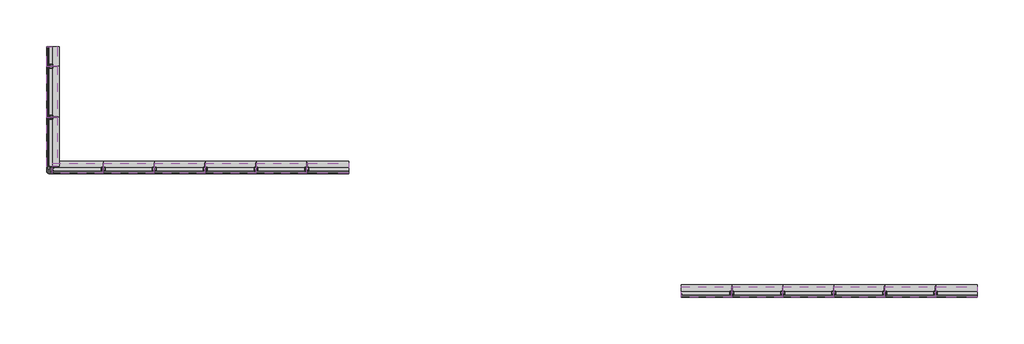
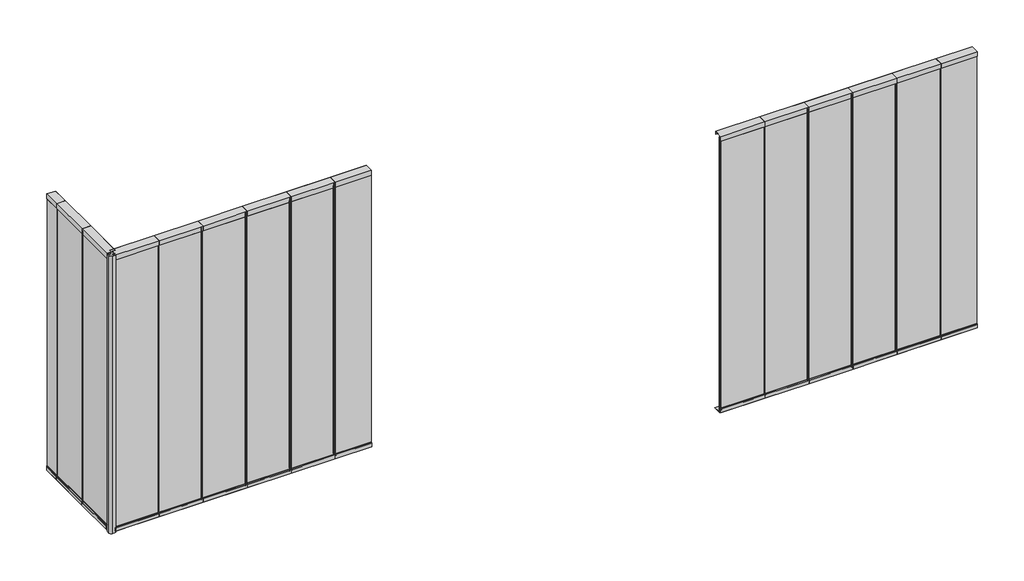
# One storey: 43 members, 15 plates.
"""IFC4 building model written with IfcOpenShell, lengths in millimetres."""

from ifc_helpers import new_model, si_unit, origin, place, context, project, spatial, transform, mapped, element, save
from components import rectangular_mullion_c9690b13, rectangular_mullion_fa24a072, rectangular_mullion_9e865116, rectangular_mullion_2f2f3dde, rectangular_mullion_af15ca39, rectangular_mullion_fc1cdcd0, rectangular_mullion_d827e7fb, rectangular_mullion_955bdfa4, rectangular_mullion_7821c9bf, rectangular_mullion_8e3434e9, rectangular_mullion_a9427354, rectangular_mullion_cf001a00, rectangular_mullion_389ec351, plate_2a2454c8, plate_1be38f5d, plate_535f7c57, plate_27c9e9b5

model = new_model("IFC4")

# Units and contexts
model_context = context("Model", 3, world=origin())
ifc_project = project(units=[si_unit("LENGTHUNIT", "METRE", prefix="MILLI")], contexts=[model_context])

# Site, building, storey
site = spatial("IfcSite", under=ifc_project)
building = spatial("IfcBuilding", under=site)
storey = spatial("IfcBuildingStorey", under=building, Name="Danpal-VRS", Elevation=0.0)

# Members
placement = place(None, origin())
rectangular_mullion_shape = rectangular_mullion_c9690b13(model_context)
element("IfcMember", 1, ObjectType="Rectangular Mullion : Danpal_VRS_Interal-Cor-Mullion", at=placement, inside=storey, context=model_context, shape_type="MappedRepresentation", body=[
    mapped(rectangular_mullion_shape, transform((-6086.6024384, -379.5421989, 4000.0), x_axis=(0.0, -1.0, 0.0), y_axis=(1.0, 0.0, 0.0), z_axis=(0.0, 0.0, 1.0))),
])
rectangular_mullion_2_shape = rectangular_mullion_fa24a072(model_context)
element("IfcMember", 2, ObjectType="Rectangular Mullion : Danpal_VRS_Interal-Ver-Mullion", at=placement, inside=storey, context=model_context, shape_type="MappedRepresentation", body=[
    mapped(rectangular_mullion_2_shape, transform((-6086.6024384, 288.4104788, 79.8611478), x_axis=(0.0, 1.0, 0.0), y_axis=(1.0, 0.0, 0.0), z_axis=(0.0, 0.0, -1.0))),
])
element("IfcMember", 3, ObjectType="Rectangular Mullion : Danpal_VRS_Interal-Ver-Mullion", at=placement, inside=storey, context=model_context, shape_type="MappedRepresentation", body=[
    mapped(rectangular_mullion_2_shape, transform((-6086.6024384, 889.4104788, 79.8611478), x_axis=(0.0, 1.0, 0.0), y_axis=(1.0, 0.0, 0.0), z_axis=(0.0, 0.0, -1.0))),
])
rectangular_mullion_3_shape = rectangular_mullion_9e865116(model_context)
element("IfcMember", 4, ObjectType="Rectangular Mullion : Danpal_VRS_Interal-Ver-Mullion", at=placement, inside=storey, context=model_context, shape_type="MappedRepresentation", body=[
    mapped(rectangular_mullion_3_shape, transform((-3022.6024384, -368.7421989, 79.8611478), x_axis=(1.0, 0.0, 0.0), y_axis=(0.0, -1.0, 0.0), z_axis=(0.0, 0.0, -1.0))),
])
element("IfcMember", 5, ObjectType="Rectangular Mullion : Danpal_VRS_Interal-Ver-Mullion", at=placement, inside=storey, context=model_context, shape_type="MappedRepresentation", body=[
    mapped(rectangular_mullion_3_shape, transform((-3623.6024384, -368.7421989, 79.8611478), x_axis=(1.0, 0.0, 0.0), y_axis=(0.0, -1.0, 0.0), z_axis=(0.0, 0.0, -1.0))),
])
element("IfcMember", 6, ObjectType="Rectangular Mullion : Danpal_VRS_Interal-Ver-Mullion", at=placement, inside=storey, context=model_context, shape_type="MappedRepresentation", body=[
    mapped(rectangular_mullion_3_shape, transform((1995.9213414, -1830.6007225, 79.8611478), x_axis=(1.0, 0.0, 0.0), y_axis=(0.0, -1.0, 0.0), z_axis=(0.0, 0.0, -1.0))),
])
element("IfcMember", 7, ObjectType="Rectangular Mullion : Danpal_VRS_Interal-Ver-Mullion", at=placement, inside=storey, context=model_context, shape_type="MappedRepresentation", body=[
    mapped(rectangular_mullion_3_shape, transform((2596.9213414, -1830.6007225, 79.8611478), x_axis=(1.0, 0.0, 0.0), y_axis=(0.0, -1.0, 0.0), z_axis=(0.0, 0.0, -1.0))),
])
element("IfcMember", 8, ObjectType="Rectangular Mullion : Danpal_VRS_Interal-Ver-Mullion", at=placement, inside=storey, context=model_context, shape_type="MappedRepresentation", body=[
    mapped(rectangular_mullion_3_shape, transform((3197.9213414, -1830.6007225, 79.8611478), x_axis=(1.0, 0.0, 0.0), y_axis=(0.0, -1.0, 0.0), z_axis=(0.0, 0.0, -1.0))),
])
element("IfcMember", 9, ObjectType="Rectangular Mullion : Danpal_VRS_Interal-Ver-Mullion", at=placement, inside=storey, context=model_context, shape_type="MappedRepresentation", body=[
    mapped(rectangular_mullion_3_shape, transform((3798.9213414, -1830.6007225, 79.8611478), x_axis=(1.0, 0.0, 0.0), y_axis=(0.0, -1.0, 0.0), z_axis=(0.0, 0.0, -1.0))),
])
element("IfcMember", 10, ObjectType="Rectangular Mullion : Danpal_VRS_Interal-Ver-Mullion", at=placement, inside=storey, context=model_context, shape_type="MappedRepresentation", body=[
    mapped(rectangular_mullion_3_shape, transform((4399.9213414, -1830.6007225, 79.8611478), x_axis=(1.0, 0.0, 0.0), y_axis=(0.0, -1.0, 0.0), z_axis=(0.0, 0.0, -1.0))),
])
element("IfcMember", 11, ObjectType="Rectangular Mullion : Danpal_VRS_Interal-Ver-Mullion", at=placement, inside=storey, context=model_context, shape_type="MappedRepresentation", body=[
    mapped(rectangular_mullion_3_shape, transform((-4224.6024384, -368.7421989, 79.8611478), x_axis=(1.0, 0.0, 0.0), y_axis=(0.0, -1.0, 0.0), z_axis=(0.0, 0.0, -1.0))),
])
element("IfcMember", 12, ObjectType="Rectangular Mullion : Danpal_VRS_Interal-Ver-Mullion", at=placement, inside=storey, context=model_context, shape_type="MappedRepresentation", body=[
    mapped(rectangular_mullion_3_shape, transform((-4825.6024384, -368.7421989, 79.8611478), x_axis=(1.0, 0.0, 0.0), y_axis=(0.0, -1.0, 0.0), z_axis=(0.0, 0.0, -1.0))),
])
element("IfcMember", 13, ObjectType="Rectangular Mullion : Danpal_VRS_Interal-Ver-Mullion", at=placement, inside=storey, context=model_context, shape_type="MappedRepresentation", body=[
    mapped(rectangular_mullion_3_shape, transform((-5426.6024384, -368.7421989, 79.8611478), x_axis=(1.0, 0.0, 0.0), y_axis=(0.0, -1.0, 0.0), z_axis=(0.0, 0.0, -1.0))),
])
rectangular_mullion_4_shape = rectangular_mullion_2f2f3dde(model_context)
element("IfcMember", 14, ObjectType="Rectangular Mullion : Danpal_VRS_Top-Mullion", at=placement, inside=storey, context=model_context, shape_type="MappedRepresentation", body=[
    mapped(rectangular_mullion_4_shape, transform((-6086.6024384, 288.4104788, 4000.0), x_axis=(0.0, 0.0, 1.0), y_axis=(1.0, 0.0, 0.0), z_axis=(0.0, 1.0, 0.0))),
])
rectangular_mullion_5_shape = rectangular_mullion_af15ca39(model_context)
element("IfcMember", 15, ObjectType="Rectangular Mullion : Danpal_VRS_Top-Mullion", at=placement, inside=storey, context=model_context, shape_type="MappedRepresentation", body=[
    mapped(rectangular_mullion_5_shape, transform((-6086.6024384, 889.4104788, 4000.0), x_axis=(0.0, 0.0, 1.0), y_axis=(1.0, 0.0, 0.0), z_axis=(0.0, 1.0, 0.0))),
])
rectangular_mullion_6_shape = rectangular_mullion_fc1cdcd0(model_context)
element("IfcMember", 16, ObjectType="Rectangular Mullion : Danpal_VRS_Bottom-Mullion", at=placement, inside=storey, context=model_context, shape_type="MappedRepresentation", body=[
    mapped(rectangular_mullion_6_shape, transform((-6086.6024384, -291.2373802, 0.0), x_axis=(0.0, 0.0, -1.0), y_axis=(1.0, 0.0, 0.0), z_axis=(0.0, -1.0, 0.0))),
])
rectangular_mullion_7_shape = rectangular_mullion_d827e7fb(model_context)
element("IfcMember", 17, ObjectType="Rectangular Mullion : Danpal_VRS_Bottom-Mullion", at=placement, inside=storey, context=model_context, shape_type="MappedRepresentation", body=[
    mapped(rectangular_mullion_7_shape, transform((-6086.6024384, 288.4104788, 0.0), x_axis=(0.0, 0.0, -1.0), y_axis=(1.0, 0.0, 0.0), z_axis=(0.0, -1.0, 0.0))),
])
rectangular_mullion_8_shape = rectangular_mullion_955bdfa4(model_context)
element("IfcMember", 18, ObjectType="Rectangular Mullion : Danpal_VRS_Bottom-Mullion", at=placement, inside=storey, context=model_context, shape_type="MappedRepresentation", body=[
    mapped(rectangular_mullion_8_shape, transform((-6027.6024384, -368.7421989, 0.0), x_axis=(0.0, 0.0, -1.0), y_axis=(0.0, -1.0, 0.0), z_axis=(-1.0, 0.0, 0.0))),
])
element("IfcMember", 19, ObjectType="Rectangular Mullion : Danpal_VRS_Bottom-Mullion", at=placement, inside=storey, context=model_context, shape_type="MappedRepresentation", body=[
    mapped(rectangular_mullion_8_shape, transform((1394.9213414, -1830.6007225, 0.0), x_axis=(0.0, 0.0, -1.0), y_axis=(0.0, -1.0, 0.0), z_axis=(-1.0, 0.0, 0.0))),
])
rectangular_mullion_9_shape = rectangular_mullion_7821c9bf(model_context)
element("IfcMember", 20, ObjectType="Rectangular Mullion : Danpal_VRS_Top-Mullion", at=placement, inside=storey, context=model_context, shape_type="MappedRepresentation", body=[
    mapped(rectangular_mullion_9_shape, transform((-3022.6024384, -368.7421989, 4000.0), x_axis=(0.0, 0.0, 1.0), y_axis=(0.0, -1.0, 0.0), z_axis=(1.0, 0.0, 0.0))),
])
element("IfcMember", 21, ObjectType="Rectangular Mullion : Danpal_VRS_Top-Mullion", at=placement, inside=storey, context=model_context, shape_type="MappedRepresentation", body=[
    mapped(rectangular_mullion_9_shape, transform((-3623.6024384, -368.7421989, 4000.0), x_axis=(0.0, 0.0, 1.0), y_axis=(0.0, -1.0, 0.0), z_axis=(1.0, 0.0, 0.0))),
])
element("IfcMember", 22, ObjectType="Rectangular Mullion : Danpal_VRS_Top-Mullion", at=placement, inside=storey, context=model_context, shape_type="MappedRepresentation", body=[
    mapped(rectangular_mullion_9_shape, transform((2596.9213414, -1830.6007225, 4000.0), x_axis=(0.0, 0.0, 1.0), y_axis=(0.0, -1.0, 0.0), z_axis=(1.0, 0.0, 0.0))),
])
element("IfcMember", 23, ObjectType="Rectangular Mullion : Danpal_VRS_Top-Mullion", at=placement, inside=storey, context=model_context, shape_type="MappedRepresentation", body=[
    mapped(rectangular_mullion_9_shape, transform((3197.9213414, -1830.6007225, 4000.0), x_axis=(0.0, 0.0, 1.0), y_axis=(0.0, -1.0, 0.0), z_axis=(1.0, 0.0, 0.0))),
])
element("IfcMember", 24, ObjectType="Rectangular Mullion : Danpal_VRS_Top-Mullion", at=placement, inside=storey, context=model_context, shape_type="MappedRepresentation", body=[
    mapped(rectangular_mullion_9_shape, transform((3798.9213414, -1830.6007225, 4000.0), x_axis=(0.0, 0.0, 1.0), y_axis=(0.0, -1.0, 0.0), z_axis=(1.0, 0.0, 0.0))),
])
element("IfcMember", 25, ObjectType="Rectangular Mullion : Danpal_VRS_Top-Mullion", at=placement, inside=storey, context=model_context, shape_type="MappedRepresentation", body=[
    mapped(rectangular_mullion_9_shape, transform((4399.9213414, -1830.6007225, 4000.0), x_axis=(0.0, 0.0, 1.0), y_axis=(0.0, -1.0, 0.0), z_axis=(1.0, 0.0, 0.0))),
])
element("IfcMember", 26, ObjectType="Rectangular Mullion : Danpal_VRS_Top-Mullion", at=placement, inside=storey, context=model_context, shape_type="MappedRepresentation", body=[
    mapped(rectangular_mullion_9_shape, transform((-4825.6024384, -368.7421989, 4000.0), x_axis=(0.0, 0.0, 1.0), y_axis=(0.0, -1.0, 0.0), z_axis=(1.0, 0.0, 0.0))),
])
element("IfcMember", 27, ObjectType="Rectangular Mullion : Danpal_VRS_Top-Mullion", at=placement, inside=storey, context=model_context, shape_type="MappedRepresentation", body=[
    mapped(rectangular_mullion_9_shape, transform((-4224.6024384, -368.7421989, 4000.0), x_axis=(0.0, 0.0, 1.0), y_axis=(0.0, -1.0, 0.0), z_axis=(1.0, 0.0, 0.0))),
])
element("IfcMember", 28, ObjectType="Rectangular Mullion : Danpal_VRS_Bottom-Mullion", at=placement, inside=storey, context=model_context, shape_type="MappedRepresentation", body=[
    mapped(rectangular_mullion_8_shape, transform((-3623.6024384, -368.7421989, 0.0), x_axis=(0.0, 0.0, -1.0), y_axis=(0.0, -1.0, 0.0), z_axis=(-1.0, 0.0, 0.0))),
])
element("IfcMember", 29, ObjectType="Rectangular Mullion : Danpal_VRS_Bottom-Mullion", at=placement, inside=storey, context=model_context, shape_type="MappedRepresentation", body=[
    mapped(rectangular_mullion_8_shape, transform((1995.9213414, -1830.6007225, 0.0), x_axis=(0.0, 0.0, -1.0), y_axis=(0.0, -1.0, 0.0), z_axis=(-1.0, 0.0, 0.0))),
])
element("IfcMember", 30, ObjectType="Rectangular Mullion : Danpal_VRS_Bottom-Mullion", at=placement, inside=storey, context=model_context, shape_type="MappedRepresentation", body=[
    mapped(rectangular_mullion_8_shape, transform((2596.9213414, -1830.6007225, 0.0), x_axis=(0.0, 0.0, -1.0), y_axis=(0.0, -1.0, 0.0), z_axis=(-1.0, 0.0, 0.0))),
])
element("IfcMember", 31, ObjectType="Rectangular Mullion : Danpal_VRS_Bottom-Mullion", at=placement, inside=storey, context=model_context, shape_type="MappedRepresentation", body=[
    mapped(rectangular_mullion_8_shape, transform((3197.9213414, -1830.6007225, 0.0), x_axis=(0.0, 0.0, -1.0), y_axis=(0.0, -1.0, 0.0), z_axis=(-1.0, 0.0, 0.0))),
])
element("IfcMember", 32, ObjectType="Rectangular Mullion : Danpal_VRS_Bottom-Mullion", at=placement, inside=storey, context=model_context, shape_type="MappedRepresentation", body=[
    mapped(rectangular_mullion_8_shape, transform((3798.9213414, -1830.6007225, 0.0), x_axis=(0.0, 0.0, -1.0), y_axis=(0.0, -1.0, 0.0), z_axis=(-1.0, 0.0, 0.0))),
])
element("IfcMember", 33, ObjectType="Rectangular Mullion : Danpal_VRS_Bottom-Mullion", at=placement, inside=storey, context=model_context, shape_type="MappedRepresentation", body=[
    mapped(rectangular_mullion_8_shape, transform((-5426.6024384, -368.7421989, 0.0), x_axis=(0.0, 0.0, -1.0), y_axis=(0.0, -1.0, 0.0), z_axis=(-1.0, 0.0, 0.0))),
])
element("IfcMember", 34, ObjectType="Rectangular Mullion : Danpal_VRS_Bottom-Mullion", at=placement, inside=storey, context=model_context, shape_type="MappedRepresentation", body=[
    mapped(rectangular_mullion_8_shape, transform((-4825.6024384, -368.7421989, 0.0), x_axis=(0.0, 0.0, -1.0), y_axis=(0.0, -1.0, 0.0), z_axis=(-1.0, 0.0, 0.0))),
])
element("IfcMember", 35, ObjectType="Rectangular Mullion : Danpal_VRS_Bottom-Mullion", at=placement, inside=storey, context=model_context, shape_type="MappedRepresentation", body=[
    mapped(rectangular_mullion_8_shape, transform((-4224.6024384, -368.7421989, 0.0), x_axis=(0.0, 0.0, -1.0), y_axis=(0.0, -1.0, 0.0), z_axis=(-1.0, 0.0, 0.0))),
])
element("IfcMember", 36, ObjectType="Rectangular Mullion : Danpal_VRS_Top-Mullion", at=placement, inside=storey, context=model_context, shape_type="MappedRepresentation", body=[
    mapped(rectangular_mullion_9_shape, transform((1995.9213414, -1830.6007225, 4000.0), x_axis=(0.0, 0.0, 1.0), y_axis=(0.0, -1.0, 0.0), z_axis=(1.0, 0.0, 0.0))),
])
element("IfcMember", 37, ObjectType="Rectangular Mullion : Danpal_VRS_Top-Mullion", at=placement, inside=storey, context=model_context, shape_type="MappedRepresentation", body=[
    mapped(rectangular_mullion_9_shape, transform((-5426.6024384, -368.7421989, 4000.0), x_axis=(0.0, 0.0, 1.0), y_axis=(0.0, -1.0, 0.0), z_axis=(1.0, 0.0, 0.0))),
])
rectangular_mullion_10_shape = rectangular_mullion_8e3434e9(model_context)
element("IfcMember", 38, ObjectType="Rectangular Mullion : Danpal_VRS_Top-Mullion", at=placement, inside=storey, context=model_context, shape_type="MappedRepresentation", body=[
    mapped(rectangular_mullion_10_shape, transform((-6086.6024384, 1120.4578011, 4000.0), x_axis=(0.0, 0.0, 1.0), y_axis=(1.0, 0.0, 0.0), z_axis=(0.0, 1.0, 0.0))),
])
rectangular_mullion_11_shape = rectangular_mullion_a9427354(model_context)
element("IfcMember", 39, ObjectType="Rectangular Mullion : Danpal_VRS_Bottom-Mullion", at=placement, inside=storey, context=model_context, shape_type="MappedRepresentation", body=[
    mapped(rectangular_mullion_11_shape, transform((-6086.6024384, 889.4104788, 0.0), x_axis=(0.0, 0.0, -1.0), y_axis=(1.0, 0.0, 0.0), z_axis=(0.0, -1.0, 0.0))),
])
rectangular_mullion_12_shape = rectangular_mullion_cf001a00(model_context)
element("IfcMember", 40, ObjectType="Rectangular Mullion : Danpal_VRS_Top-Mullion", at=placement, inside=storey, context=model_context, shape_type="MappedRepresentation", body=[
    mapped(rectangular_mullion_12_shape, transform((-2527.6024384, -368.7421989, 4000.0), x_axis=(0.0, 0.0, 1.0), y_axis=(0.0, -1.0, 0.0), z_axis=(1.0, 0.0, 0.0))),
])
element("IfcMember", 41, ObjectType="Rectangular Mullion : Danpal_VRS_Top-Mullion", at=placement, inside=storey, context=model_context, shape_type="MappedRepresentation", body=[
    mapped(rectangular_mullion_12_shape, transform((4894.9213414, -1830.6007225, 4000.0), x_axis=(0.0, 0.0, 1.0), y_axis=(0.0, -1.0, 0.0), z_axis=(1.0, 0.0, 0.0))),
])
rectangular_mullion_13_shape = rectangular_mullion_389ec351(model_context)
element("IfcMember", 42, ObjectType="Rectangular Mullion : Danpal_VRS_Bottom-Mullion", at=placement, inside=storey, context=model_context, shape_type="MappedRepresentation", body=[
    mapped(rectangular_mullion_13_shape, transform((-3022.6024384, -368.7421989, 0.0), x_axis=(0.0, 0.0, -1.0), y_axis=(0.0, -1.0, 0.0), z_axis=(-1.0, 0.0, 0.0))),
])
element("IfcMember", 43, ObjectType="Rectangular Mullion : Danpal_VRS_Bottom-Mullion", at=placement, inside=storey, context=model_context, shape_type="MappedRepresentation", body=[
    mapped(rectangular_mullion_13_shape, transform((4399.9213414, -1830.6007225, 0.0), x_axis=(0.0, 0.0, -1.0), y_axis=(0.0, -1.0, 0.0), z_axis=(-1.0, 0.0, 0.0))),
])

# Plates
plate_shape = plate_2a2454c8(model_context)
element("IfcPlate", 44, ObjectType="Walls_Curtain-Walls_Danpal_VRS-System : Walls_Curtain-Walls_Danpal_VRS-System", at=placement, inside=storey, context=model_context, shape_type="MappedRepresentation", body=[
    mapped(plate_shape, transform((-6086.6024384, -12.0895212, 30.8342883), x_axis=(0.0, 1.0, 0.0), y_axis=(-1.0, 0.0, 0.0), z_axis=(0.0, 0.0, 1.0))),
])
element("IfcPlate", 45, ObjectType="Walls_Curtain-Walls_Danpal_VRS-System : Walls_Curtain-Walls_Danpal_VRS-System", at=placement, inside=storey, context=model_context, shape_type="MappedRepresentation", body=[
    mapped(plate_shape, transform((-6086.6024384, 588.9104788, 30.8342883), x_axis=(0.0, 1.0, 0.0), y_axis=(-1.0, 0.0, 0.0), z_axis=(0.0, 0.0, 1.0))),
])
plate_2_shape = plate_1be38f5d(model_context)
element("IfcPlate", 46, ObjectType="Walls_Curtain-Walls_Danpal_VRS-System : Walls_Curtain-Walls_Danpal_VRS-System", at=placement, inside=storey, context=model_context, shape_type="MappedRepresentation", body=[
    mapped(plate_2_shape, transform((-5727.1024384, -368.7421989, 30.8342883), x_axis=(1.0, 0.0, 0.0), y_axis=(0.0, 1.0, 0.0), z_axis=(0.0, 0.0, 1.0))),
])
element("IfcPlate", 47, ObjectType="Walls_Curtain-Walls_Danpal_VRS-System : Walls_Curtain-Walls_Danpal_VRS-System", at=placement, inside=storey, context=model_context, shape_type="MappedRepresentation", body=[
    mapped(plate_2_shape, transform((-3323.1024384, -368.7421989, 30.8342883), x_axis=(1.0, 0.0, 0.0), y_axis=(0.0, 1.0, 0.0), z_axis=(0.0, 0.0, 1.0))),
])
element("IfcPlate", 48, ObjectType="Walls_Curtain-Walls_Danpal_VRS-System : Walls_Curtain-Walls_Danpal_VRS-System", at=placement, inside=storey, context=model_context, shape_type="MappedRepresentation", body=[
    mapped(plate_2_shape, transform((1695.4213414, -1830.6007225, 30.8342883), x_axis=(1.0, 0.0, 0.0), y_axis=(0.0, 1.0, 0.0), z_axis=(0.0, 0.0, 1.0))),
])
element("IfcPlate", 49, ObjectType="Walls_Curtain-Walls_Danpal_VRS-System : Walls_Curtain-Walls_Danpal_VRS-System", at=placement, inside=storey, context=model_context, shape_type="MappedRepresentation", body=[
    mapped(plate_2_shape, transform((2296.4213414, -1830.6007225, 30.8342883), x_axis=(1.0, 0.0, 0.0), y_axis=(0.0, 1.0, 0.0), z_axis=(0.0, 0.0, 1.0))),
])
element("IfcPlate", 50, ObjectType="Walls_Curtain-Walls_Danpal_VRS-System : Walls_Curtain-Walls_Danpal_VRS-System", at=placement, inside=storey, context=model_context, shape_type="MappedRepresentation", body=[
    mapped(plate_2_shape, transform((2897.4213414, -1830.6007225, 30.8342883), x_axis=(1.0, 0.0, 0.0), y_axis=(0.0, 1.0, 0.0), z_axis=(0.0, 0.0, 1.0))),
])
element("IfcPlate", 51, ObjectType="Walls_Curtain-Walls_Danpal_VRS-System : Walls_Curtain-Walls_Danpal_VRS-System", at=placement, inside=storey, context=model_context, shape_type="MappedRepresentation", body=[
    mapped(plate_2_shape, transform((3498.4213414, -1830.6007225, 30.8342883), x_axis=(1.0, 0.0, 0.0), y_axis=(0.0, 1.0, 0.0), z_axis=(0.0, 0.0, 1.0))),
])
element("IfcPlate", 52, ObjectType="Walls_Curtain-Walls_Danpal_VRS-System : Walls_Curtain-Walls_Danpal_VRS-System", at=placement, inside=storey, context=model_context, shape_type="MappedRepresentation", body=[
    mapped(plate_2_shape, transform((4099.4213414, -1830.6007225, 30.8342883), x_axis=(1.0, 0.0, 0.0), y_axis=(0.0, 1.0, 0.0), z_axis=(0.0, 0.0, 1.0))),
])
element("IfcPlate", 53, ObjectType="Walls_Curtain-Walls_Danpal_VRS-System : Walls_Curtain-Walls_Danpal_VRS-System", at=placement, inside=storey, context=model_context, shape_type="MappedRepresentation", body=[
    mapped(plate_2_shape, transform((-3924.1024384, -368.7421989, 30.8342883), x_axis=(1.0, 0.0, 0.0), y_axis=(0.0, 1.0, 0.0), z_axis=(0.0, 0.0, 1.0))),
])
element("IfcPlate", 54, ObjectType="Walls_Curtain-Walls_Danpal_VRS-System : Walls_Curtain-Walls_Danpal_VRS-System", at=placement, inside=storey, context=model_context, shape_type="MappedRepresentation", body=[
    mapped(plate_2_shape, transform((-4525.1024384, -368.7421989, 30.8342883), x_axis=(1.0, 0.0, 0.0), y_axis=(0.0, 1.0, 0.0), z_axis=(0.0, 0.0, 1.0))),
])
element("IfcPlate", 55, ObjectType="Walls_Curtain-Walls_Danpal_VRS-System : Walls_Curtain-Walls_Danpal_VRS-System", at=placement, inside=storey, context=model_context, shape_type="MappedRepresentation", body=[
    mapped(plate_2_shape, transform((-5126.1024384, -368.7421989, 30.8342883), x_axis=(1.0, 0.0, 0.0), y_axis=(0.0, 1.0, 0.0), z_axis=(0.0, 0.0, 1.0))),
])
plate_3_shape = plate_535f7c57(model_context)
element("IfcPlate", 56, ObjectType="Walls_Curtain-Walls_Danpal_VRS-System : Walls_Curtain-Walls_Danpal_VRS-System", at=placement, inside=storey, context=model_context, shape_type="MappedRepresentation", body=[
    mapped(plate_3_shape, transform((-6086.6024384, 1004.93414, 30.8342883), x_axis=(0.0, 1.0, 0.0), y_axis=(-1.0, 0.0, 0.0), z_axis=(0.0, 0.0, 1.0))),
])
plate_4_shape = plate_27c9e9b5(model_context)
element("IfcPlate", 57, ObjectType="Walls_Curtain-Walls_Danpal_VRS-System : Walls_Curtain-Walls_Danpal_VRS-System", at=placement, inside=storey, context=model_context, shape_type="MappedRepresentation", body=[
    mapped(plate_4_shape, transform((-2775.1024384, -368.7421989, 30.8342883), x_axis=(1.0, 0.0, 0.0), y_axis=(0.0, 1.0, 0.0), z_axis=(0.0, 0.0, 1.0))),
])
element("IfcPlate", 58, ObjectType="Walls_Curtain-Walls_Danpal_VRS-System : Walls_Curtain-Walls_Danpal_VRS-System", at=placement, inside=storey, context=model_context, shape_type="MappedRepresentation", body=[
    mapped(plate_4_shape, transform((4647.4213414, -1830.6007225, 30.8342883), x_axis=(1.0, 0.0, 0.0), y_axis=(0.0, 1.0, 0.0), z_axis=(0.0, 0.0, 1.0))),
])

save(model, "model.ifc")
